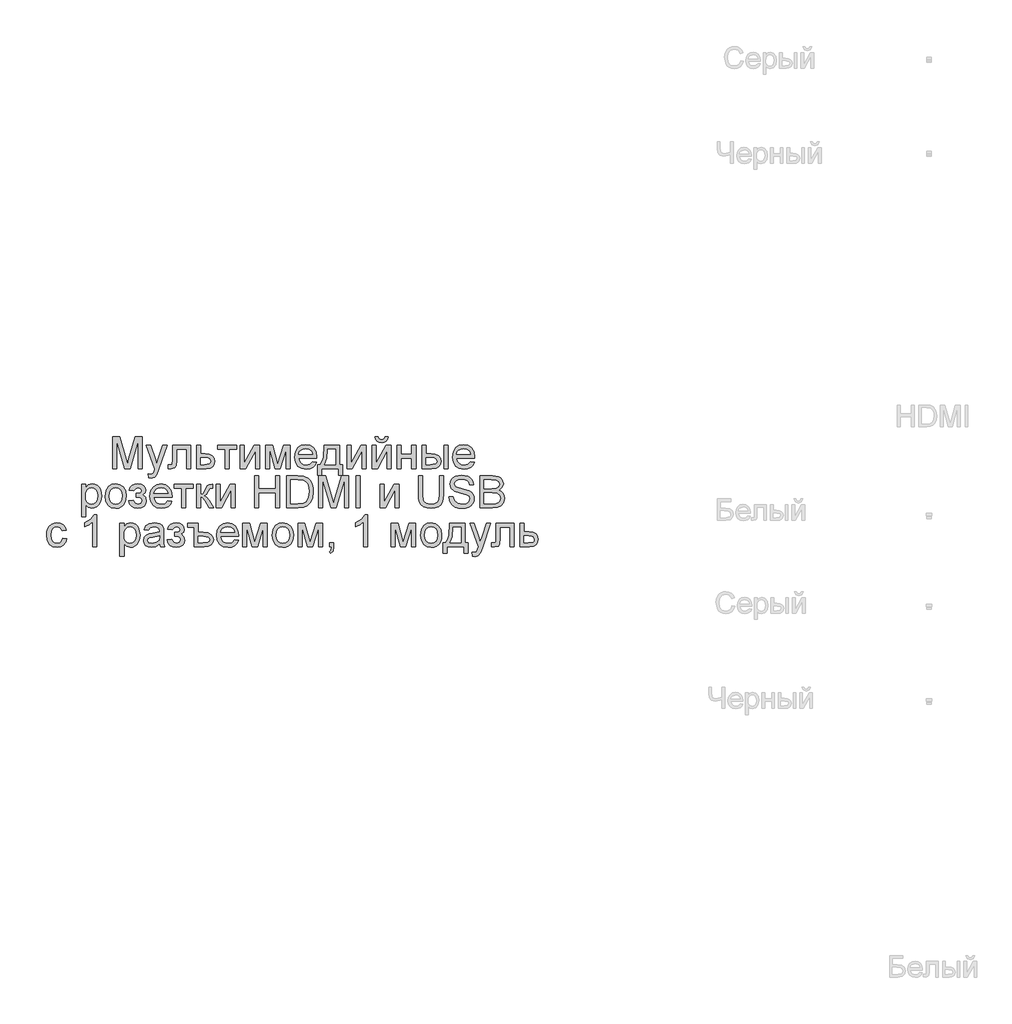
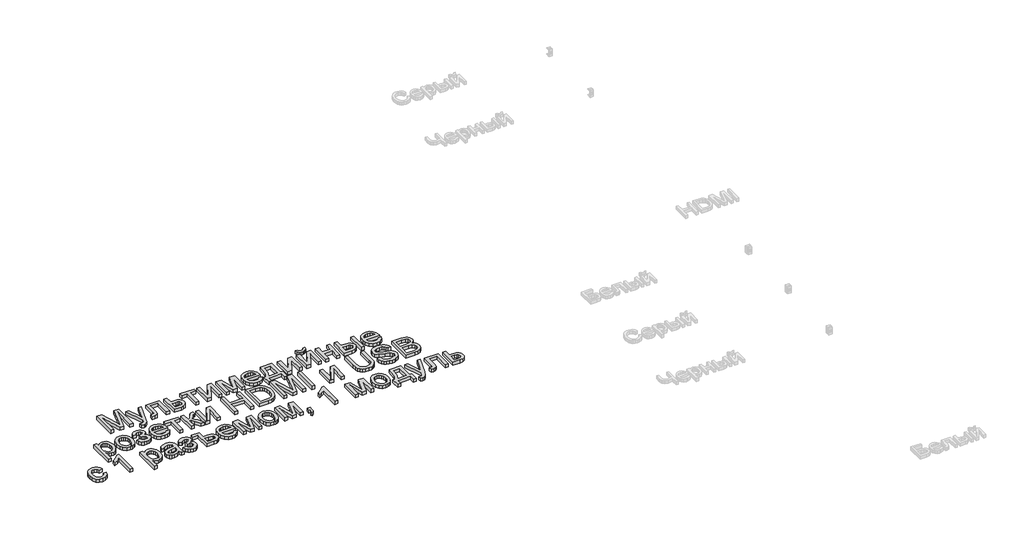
# One storey, part 5 of 15: 1 proxy.
"""IFC4 building model written with IfcOpenShell, lengths in millimetres."""

from ifc_helpers import new_model, si_unit, origin, origin_with_axes, place, context, project, spatial, polyline, outline, extrude, element, save

model = new_model("IFC4")

# Units and contexts
model_context = context("Model", 3, world=origin())
ifc_project = project(units=[si_unit("LENGTHUNIT", "METRE", prefix="MILLI")], contexts=[model_context])

# Site, building, storey
site = spatial("IfcSite", under=ifc_project)
building = spatial("IfcBuilding", under=site)
storey = spatial("IfcBuildingStorey", under=building, Name="Этаж 01", Elevation=0.0)

# Proxy
placement = place(None, origin())
element("IfcBuildingElementProxy", 1, Name="150 мм Arial", ObjectType="150 мм Arial", at=placement, inside=storey, context=model_context, shape_type="SweptSolid", body=[
    extrude(outline(polyline([(-2314.2486685, -606.0463775), (-2314.2486685, -455.3619122), (-2281.8382647, -455.3619122), (-2251.0097535, -561.5694442), (-2244.7925478, -583.7527285), (-2238.0603073, -559.7300343), (-2207.7468309, -455.3619122), (-2175.3364271, -455.3619122), (-2175.3364271, -606.0463775), (-2194.1719853, -606.0463775), (-2194.1719853, -474.1974704), (-2232.0270426, -606.0463775), (-2257.558053, -606.0463775), (-2295.4131103, -474.1974704), (-2295.4131103, -606.0463775), (-2314.2486685, -606.0463775)])), origin_with_axes(), (0.0, 0.0, 1.0), 20.0),
    extrude(outline(polyline([(-2144.7286451, -648.4263833), (-2147.0830899, -630.2898009), (-2137.518158, -631.9452699), (-2128.5786255, -629.8667366), (-2123.0971838, -624.0725952), (-2117.9468359, -610.203444), (-2116.4753079, -605.6417073), (-2156.5008689, -495.3874733), (-2136.6352412, -495.3874733), (-2115.4084501, -556.8237665), (-2108.014022, -581.3982838), (-2100.6195939, -559.6932461), (-2078.8041916, -495.3874733), (-2059.0857166, -495.3874733), (-2097.6029615, -608.6951278), (-2107.6093518, -633.2696451), (-2118.535447, -646.5501851), (-2133.2139387, -650.7808281), (-2144.7286451, -648.4263833)])), origin_with_axes(), (0.0, 0.0, 1.0), 20.0),
    extrude(outline(polyline([(-2034.069741, -495.3874733), (-1949.3097293, -495.3874733), (-1949.3097293, -605.9360129), (-1968.1452874, -605.9360129), (-1968.1452874, -514.2230315), (-2015.2341828, -514.2230315), (-2015.2341828, -567.0140978), (-2016.5033757, -591.3678858), (-2023.4747395, -601.6501876), (-2039.9558529, -606.0463775), (-2055.2597439, -605.0898843), (-2055.2597439, -587.2108193), (-2046.8352462, -587.2108193), (-2038.318778, -586.051991), (-2034.9158695, -582.3731711), (-2034.069741, -565.94724), (-2034.069741, -495.3874733)])), origin_with_axes(), (0.0, 0.0, 1.0), 20.0),
    extrude(outline(polyline([(-1921.056392, -495.3874733), (-1902.2208339, -495.3874733), (-1902.2208339, -535.4130344), (-1880.5157962, -535.4130344), (-1861.6986321, -537.7720777), (-1847.7742986, -544.8492076), (-1839.1658599, -556.0742069), (-1836.2963803, -570.8768587), (-1838.7381971, -584.3551353), (-1846.0636473, -595.7272875), (-1858.7601747, -603.466605), (-1877.3152228, -606.0463775), (-1921.056392, -606.0463775), (-1921.056392, -495.3874733)]), holes=[polyline([(-1902.2208339, -587.2108193), (-1884.6360745, -587.2108193), (-1861.9193613, -583.2560879), (-1856.8287942, -578.1931119), (-1855.1319385, -570.9136469), (-1860.1535277, -559.3253641), (-1868.223939, -555.5177854), (-1882.3919943, -554.2485925), (-1902.2208339, -554.2485925), (-1902.2208339, -587.2108193)])]), origin_with_axes(), (0.0, 0.0, 1.0), 20.0),
    extrude(outline(polyline([(-1822.1697117, -495.3874733), (-1732.7008105, -495.3874733), (-1732.7008105, -514.2230315), (-1768.017482, -514.2230315), (-1768.017482, -606.0463775), (-1786.8530402, -606.0463775), (-1786.8530402, -514.2230315), (-1822.1697117, -514.2230315), (-1822.1697117, -495.3874733)])), origin_with_axes(), (0.0, 0.0, 1.0), 20.0),
    extrude(outline(polyline([(-1716.2196971, -495.3874733), (-1697.384139, -495.3874733), (-1697.384139, -579.779603), (-1651.104584, -495.3874733), (-1626.7507959, -495.3874733), (-1626.7507959, -606.0463775), (-1645.586354, -606.0463775), (-1645.586354, -522.1692826), (-1691.5716034, -606.0463775), (-1716.2196971, -606.0463775), (-1716.2196971, -495.3874733)])), origin_with_axes(), (0.0, 0.0, 1.0), 20.0),
    extrude(outline(polyline([(-1598.4974587, -495.3874733), (-1566.0870549, -495.3874733), (-1541.1078674, -583.9734577), (-1514.1789054, -495.3874733), (-1483.129665, -495.3874733), (-1483.129665, -606.0463775), (-1501.9652231, -606.0463775), (-1501.9652231, -516.9453582), (-1529.041338, -606.0463775), (-1553.763008, -606.0463775), (-1579.6619005, -512.6779271), (-1579.6619005, -606.0463775), (-1598.4974587, -606.0463775), (-1598.4974587, -495.3874733)])), origin_with_axes(), (0.0, 0.0, 1.0), 20.0),
    extrude(outline(polyline([(-1377.4003796, -573.0841507), (-1358.9327034, -575.4385955), (-1365.586769, -589.3537319), (-1376.2047631, -599.7555953), (-1390.5475624, -606.2395155), (-1408.3760436, -608.4008222), (-1430.4765544, -604.6714185), (-1447.4818996, -593.4832073), (-1458.3252215, -575.5627556), (-1461.9396621, -551.6366304), (-1458.2884333, -526.9057632), (-1447.3347468, -508.4104959), (-1430.5593279, -496.8773954), (-1409.4429013, -493.0330285), (-1388.9840639, -496.8681983), (-1372.6363077, -508.3737077), (-1361.9171461, -526.8321868), (-1358.3440922, -551.5262658), (-1358.4544568, -556.6030373), (-1443.1041039, -556.6030373), (-1439.8437497, -570.7021148), (-1432.2699791, -581.06719), (-1421.3392854, -587.4407455), (-1408.0081616, -589.5652641), (-1389.5404854, -585.6289267), (-1377.4003796, -573.0841507)]), holes=[polyline([(-1443.1041039, -537.7674792), (-1377.1796504, -537.7674792), (-1379.7272332, -527.8162712), (-1384.7212313, -520.6977546), (-1395.7025088, -514.0758787), (-1409.5164777, -511.8685867), (-1422.2130051, -513.6298217), (-1432.7114375, -518.9135269), (-1440.0092966, -527.1494851), (-1443.1041039, -537.7674792)])]), origin_with_axes(), (0.0, 0.0, 1.0), 20.0),
    extrude(outline(polyline([(-1323.0274207, -495.3874733), (-1252.3940776, -495.3874733), (-1252.3940776, -587.2108193), (-1238.267409, -587.2108193), (-1238.267409, -636.6541595), (-1257.1029671, -636.6541595), (-1257.1029671, -606.0463775), (-1334.7996445, -606.0463775), (-1334.7996445, -636.6541595), (-1353.6352027, -636.6541595), (-1353.6352027, -587.2108193), (-1341.8629788, -587.2108193), (-1333.3051239, -571.7459799), (-1327.3132459, -551.2871425), (-1323.0274207, -495.3874733)]), holes=[polyline([(-1306.5463073, -514.2230315), (-1310.9608912, -557.1364662), (-1320.6729759, -587.2108193), (-1271.2296358, -587.2108193), (-1271.2296358, -514.2230315), (-1306.5463073, -514.2230315)])]), origin_with_axes(), (0.0, 0.0, 1.0), 20.0),
    extrude(outline(polyline([(-1217.0774061, -495.3874733), (-1198.2418479, -495.3874733), (-1198.2418479, -579.779603), (-1151.9622929, -495.3874733), (-1127.6085048, -495.3874733), (-1127.6085048, -606.0463775), (-1146.444063, -606.0463775), (-1146.444063, -522.1692826), (-1192.4293124, -606.0463775), (-1217.0774061, -606.0463775), (-1217.0774061, -495.3874733)])), origin_with_axes(), (0.0, 0.0, 1.0), 20.0),
    extrude(outline(polyline([(-1099.3551676, -495.3874733), (-1080.5196095, -495.3874733), (-1080.5196095, -579.779603), (-1034.2400545, -495.3874733), (-1009.8862664, -495.3874733), (-1009.8862664, -606.0463775), (-1028.7218245, -606.0463775), (-1028.7218245, -522.1692826), (-1074.7070739, -606.0463775), (-1099.3551676, -606.0463775), (-1099.3551676, -495.3874733)])), origin_with_axes(), (0.0, 0.0, 1.0), 20.0),
    extrude(outline(polyline([(-1038.1396036, -455.3619122), (-1024.012935, -455.3619122), (-1027.05256, -467.4238431), (-1033.1548026, -476.3127919), (-1042.0437513, -481.7896351), (-1053.4434946, -483.6152495), (-1065.8135267, -481.8034306), (-1075.4060497, -476.3679742), (-1081.9635463, -467.492821), (-1085.228499, -455.3619122), (-1071.1018304, -455.3619122), (-1065.8043296, -465.9753078), (-1055.1357518, -469.4885808), (-1043.4371043, -466.0856724), (-1038.1396036, -455.3619122)])), origin_with_axes(), (0.0, 0.0, 1.0), 20.0),
    extrude(outline(polyline([(-981.6329292, -495.3874733), (-962.797371, -495.3874733), (-962.797371, -537.7674792), (-913.3540308, -537.7674792), (-913.3540308, -495.3874733), (-894.5184727, -495.3874733), (-894.5184727, -606.0463775), (-913.3540308, -606.0463775), (-913.3540308, -556.6030373), (-962.797371, -556.6030373), (-962.797371, -606.0463775), (-981.6329292, -606.0463775), (-981.6329292, -495.3874733)])), origin_with_axes(), (0.0, 0.0, 1.0), 20.0),
    extrude(outline(polyline([(-762.6695656, -495.3874733), (-743.8340075, -495.3874733), (-743.8340075, -606.0463775), (-762.6695656, -606.0463775), (-762.6695656, -495.3874733)])), origin_with_axes(), (0.0, 0.0, 1.0), 20.0),
    extrude(outline(polyline([(-866.2651355, -495.3874733), (-847.4295773, -495.3874733), (-847.4295773, -535.4130344), (-824.142647, -535.4130344), (-804.0149034, -537.7720777), (-789.101887, -544.8492076), (-779.8726474, -556.0742069), (-776.7962342, -570.8768587), (-779.3760067, -584.3551353), (-787.1153242, -595.7272875), (-800.5200244, -603.466605), (-820.0959451, -606.0463775), (-866.2651355, -606.0463775), (-866.2651355, -495.3874733)]), holes=[polyline([(-847.4295773, -587.2108193), (-828.0789844, -587.2108193), (-803.0997969, -583.2560879), (-797.4987935, -578.1931119), (-795.6317924, -570.9136469), (-801.1684164, -559.3253641), (-810.0481681, -555.5177854), (-825.614175, -554.2485925), (-847.4295773, -554.2485925), (-847.4295773, -587.2108193)])]), origin_with_axes(), (0.0, 0.0, 1.0), 20.0),
    extrude(outline(polyline([(-638.1047221, -573.0841507), (-619.6370459, -575.4385955), (-626.2911115, -589.3537319), (-636.9091056, -599.7555953), (-651.2519049, -606.2395155), (-669.080386, -608.4008222), (-691.1808969, -604.6714185), (-708.1862421, -593.4832073), (-719.0295639, -575.5627556), (-722.6440045, -551.6366304), (-718.9927757, -526.9057632), (-708.0390893, -508.4104959), (-691.2636704, -496.8773954), (-670.1472438, -493.0330285), (-649.6884064, -496.8681983), (-633.3406502, -508.3737077), (-622.6214886, -526.8321868), (-619.0484347, -551.5262658), (-619.1587993, -556.6030373), (-703.8084464, -556.6030373), (-700.5480922, -570.7021148), (-692.9743216, -581.06719), (-682.0436279, -587.4407455), (-668.7125041, -589.5652641), (-650.2448279, -585.6289267), (-638.1047221, -573.0841507)]), holes=[polyline([(-703.8084464, -537.7674792), (-637.8839929, -537.7674792), (-640.4315757, -527.8162712), (-645.4255738, -520.6977546), (-656.4068513, -514.0758787), (-670.2208202, -511.8685867), (-682.9173476, -513.6298217), (-693.41578, -518.9135269), (-700.7136391, -527.1494851), (-703.8084464, -537.7674792)])]), origin_with_axes(), (0.0, 0.0, 1.0), 20.0),
    extrude(outline(polyline([(-2460.2242442, -831.3886101), (-2460.2242442, -678.3497001), (-2441.388686, -678.3497001), (-2441.388686, -696.8173762), (-2428.3656634, -681.2007855), (-2410.780904, -675.9952553), (-2398.0429899, -677.8162712), (-2386.9053625, -683.2793188), (-2377.8370713, -692.0533044), (-2371.3071659, -703.8071341), (-2366.0464534, -732.8330236), (-2367.531777, -748.9416564), (-2371.9877476, -763.3488351), (-2379.2718111, -775.323394), (-2389.2414132, -784.1341678), (-2400.8526887, -789.5558287), (-2413.0617724, -791.363049), (-2429.4509153, -786.5254008), (-2441.388686, -774.2933244), (-2441.388686, -831.3886101), (-2460.2242442, -831.3886101)]), holes=[polyline([(-2441.388686, -734.5620689), (-2439.3515395, -751.4478525), (-2433.2400998, -763.2568646), (-2424.2223924, -770.2098343), (-2413.4664426, -772.5274908), (-2402.5357488, -770.1270608), (-2393.2881151, -762.9257708), (-2386.9835375, -750.6844974), (-2384.8820116, -733.1641174), (-2386.9329537, -716.3703043), (-2393.08578, -704.3957453), (-2402.0896919, -697.2220464), (-2412.6938904, -694.8308135), (-2423.3394756, -697.3737977), (-2432.6882768, -705.0027506), (-2439.2135837, -717.4785488), (-2441.388686, -734.5620689)])]), origin_with_axes(), (0.0, 0.0, 1.0), 20.0),
    extrude(outline(polyline([(-2349.56534, -733.6791521), (-2345.4910469, -706.9985104), (-2333.2681676, -688.2457257), (-2318.1666117, -679.0578729), (-2300.0852117, -675.9952553), (-2280.2977588, -679.724659), (-2264.4926286, -690.9128702), (-2254.1321519, -708.6769721), (-2250.6786597, -732.1340478), (-2252.20537, -751.162744), (-2256.7855008, -765.6480975), (-2264.285695, -776.4960179), (-2274.5725953, -784.6124144), (-2286.7908761, -789.6753903), (-2300.0852117, -791.363049), (-2320.1117878, -787.6474408), (-2335.8985239, -776.5006164), (-2346.148636, -758.364034), (-2349.56534, -733.6791521)]), holes=[polyline([(-2330.7297819, -733.6423639), (-2328.550081, -750.6890959), (-2322.0109786, -762.8338003), (-2312.1701352, -770.1040682), (-2300.0852117, -772.5274908), (-2288.0554704, -770.0902726), (-2278.2330212, -762.778618), (-2271.6939187, -750.4729652), (-2269.5142179, -733.0537528), (-2271.7077143, -716.5036615), (-2278.2882035, -704.524504), (-2288.1244483, -697.2542361), (-2300.0852117, -694.8308135), (-2312.1701352, -697.2450391), (-2322.0109786, -704.4877158), (-2328.550081, -716.604829), (-2330.7297819, -733.6423639)])]), origin_with_axes(), (0.0, 0.0, 1.0), 20.0),
    extrude(outline(polyline([(-2203.5897643, -739.5652641), (-2203.5897643, -720.7297059), (-2188.7273317, -719.9939419), (-2181.222539, -716.0759987), (-2177.6908719, -707.8906243), (-2182.4181555, -698.3808747), (-2194.6134436, -694.8308135), (-2207.213402, -698.3624806), (-2215.3619882, -708.9574821), (-2236.5519911, -706.6030373), (-2230.9325936, -693.2121327), (-2222.3885343, -683.6472008), (-2210.9198131, -677.9082417), (-2196.52643, -675.9952553), (-2180.7810806, -678.3267074), (-2168.861704, -685.3210639), (-2161.3569113, -695.5527819), (-2158.8553137, -707.5963187), (-2162.414572, -719.2949661), (-2173.0923469, -728.3448632), (-2160.6395414, -740.0802989), (-2156.5008689, -756.9660824), (-2159.1266267, -770.8306351), (-2167.0038999, -781.8165112), (-2179.5992597, -788.9764145), (-2196.3792772, -791.363049), (-2212.7914127, -789.155757), (-2225.3499843, -782.5338811), (-2234.0549921, -771.4974213), (-2238.9064359, -756.0463775), (-2217.7164329, -753.6919327), (-2209.2183589, -767.5978721), (-2194.5766554, -772.5274908), (-2180.8178688, -767.8002072), (-2175.3364271, -755.7152837), (-2178.7393356, -745.819258), (-2185.9866109, -740.5217573), (-2199.9109444, -739.4548995), (-2203.5897643, -739.5652641)])), origin_with_axes(), (0.0, 0.0, 1.0), 20.0),
    extrude(outline(polyline([(-2055.4804731, -756.0463775), (-2037.0127969, -758.4008222), (-2043.6668625, -772.3159587), (-2054.2848566, -782.7178221), (-2068.6276559, -789.2017423), (-2086.4561371, -791.363049), (-2108.5566479, -787.6336453), (-2125.5619932, -776.4454341), (-2136.405315, -758.5249824), (-2140.0197556, -734.5988571), (-2136.3685268, -709.86799), (-2125.4148404, -691.3727227), (-2108.6394214, -679.8396222), (-2087.5229949, -675.9952553), (-2067.0641574, -679.8304251), (-2050.7164012, -691.3359345), (-2039.9972396, -709.7944136), (-2036.4241857, -734.4884925), (-2036.5345503, -739.5652641), (-2121.1841974, -739.5652641), (-2117.9238432, -753.6643415), (-2110.3500727, -764.0294168), (-2099.4193789, -770.4029723), (-2086.0882551, -772.5274908), (-2067.6205789, -768.5911535), (-2055.4804731, -756.0463775)]), holes=[polyline([(-2121.1841974, -720.7297059), (-2055.2597439, -720.7297059), (-2057.8073267, -710.7784979), (-2062.8013248, -703.6599813), (-2073.7826023, -697.0381054), (-2087.5965713, -694.8308135), (-2100.2930986, -696.5920485), (-2110.791531, -701.8757537), (-2118.0893901, -710.1117118), (-2121.1841974, -720.7297059)])]), origin_with_axes(), (0.0, 0.0, 1.0), 20.0),
    extrude(outline(polyline([(-2027.0064066, -678.3497001), (-1937.5375054, -678.3497001), (-1937.5375054, -697.1852582), (-1972.854177, -697.1852582), (-1972.854177, -789.0086042), (-1991.6897351, -789.0086042), (-1991.6897351, -697.1852582), (-2027.0064066, -697.1852582), (-2027.0064066, -678.3497001)])), origin_with_axes(), (0.0, 0.0, 1.0), 20.0),
    extrude(outline(polyline([(-1921.056392, -678.3497001), (-1902.2208339, -678.3497001), (-1902.2208339, -725.4385955), (-1889.6024814, -722.0540811), (-1879.2649974, -702.3356062), (-1870.6749528, -685.3210639), (-1863.0965837, -679.7844399), (-1849.319403, -678.3497001), (-1845.7141594, -678.3497001), (-1845.7141594, -697.2956228), (-1850.790931, -697.1852582), (-1859.9879808, -699.171821), (-1866.462704, -711.5694442), (-1874.0594672, -724.978743), (-1884.7096509, -731.5454366), (-1872.8270625, -738.8754853), (-1861.1652032, -754.3173321), (-1841.0052699, -789.0086042), (-1862.416002, -789.0086042), (-1882.1712651, -755.0530961), (-1892.104079, -740.6873042), (-1902.2208339, -737.2108193), (-1902.2208339, -789.0086042), (-1921.056392, -789.0086042), (-1921.056392, -678.3497001)])), origin_with_axes(), (0.0, 0.0, 1.0), 20.0),
    extrude(outline(polyline([(-1829.233046, -678.3497001), (-1810.3974879, -678.3497001), (-1810.3974879, -762.7418298), (-1764.1179329, -678.3497001), (-1739.7641448, -678.3497001), (-1739.7641448, -789.0086042), (-1758.599703, -789.0086042), (-1758.599703, -705.1315093), (-1804.5849524, -789.0086042), (-1829.233046, -789.0086042), (-1829.233046, -678.3497001)])), origin_with_axes(), (0.0, 0.0, 1.0), 20.0),
    extrude(outline(polyline([(-1650.2952436, -789.0086042), (-1650.2952436, -638.324139), (-1631.4596854, -638.324139), (-1631.4596854, -699.539703), (-1551.4085633, -699.539703), (-1551.4085633, -638.324139), (-1532.5730051, -638.324139), (-1532.5730051, -789.0086042), (-1551.4085633, -789.0086042), (-1551.4085633, -718.3752611), (-1631.4596854, -718.3752611), (-1631.4596854, -789.0086042), (-1650.2952436, -789.0086042)])), origin_with_axes(), (0.0, 0.0, 1.0), 20.0),
    extrude(outline(polyline([(-1499.6107784, -789.0086042), (-1499.6107784, -638.324139), (-1447.6290524, -638.324139), (-1420.7368786, -640.4946428), (-1398.5903825, -651.2735852), (-1388.170125, -662.7515035), (-1380.7481057, -677.0253249), (-1376.3059306, -693.819138), (-1374.8252056, -712.8570312), (-1378.8351193, -743.2624781), (-1389.1358152, -765.2066391), (-1402.8946018, -778.8734553), (-1420.9024255, -786.4334303), (-1445.1274549, -789.0086042), (-1499.6107784, -789.0086042)]), holes=[polyline([(-1480.7752202, -770.1730461), (-1447.4451114, -770.1730461), (-1423.201688, -767.4507193), (-1409.2221721, -759.7619856), (-1397.762648, -741.0551862), (-1393.6607637, -712.5627256), (-1395.6703191, -692.0349103), (-1401.6989853, -676.8781721), (-1410.6063282, -666.4671116), (-1421.2519134, -660.1763295), (-1447.9601462, -657.1596972), (-1480.7752202, -657.1596972), (-1480.7752202, -770.1730461)])]), origin_with_axes(), (0.0, 0.0, 1.0), 20.0),
    extrude(outline(polyline([(-1348.9263131, -789.0086042), (-1348.9263131, -638.324139), (-1316.5159094, -638.324139), (-1285.6873982, -744.531671), (-1279.4701924, -766.7149553), (-1272.7379519, -742.692261), (-1242.4244755, -638.324139), (-1210.0140718, -638.324139), (-1210.0140718, -789.0086042), (-1228.8496299, -789.0086042), (-1228.8496299, -657.1596972), (-1266.7046872, -789.0086042), (-1292.2356977, -789.0086042), (-1330.090755, -657.1596972), (-1330.090755, -789.0086042), (-1348.9263131, -789.0086042)])), origin_with_axes(), (0.0, 0.0, 1.0), 20.0),
    extrude(outline(polyline([(-1174.6974002, -789.0086042), (-1174.6974002, -638.324139), (-1155.8618421, -638.324139), (-1155.8618421, -789.0086042), (-1174.6974002, -789.0086042)])), origin_with_axes(), (0.0, 0.0, 1.0), 20.0),
    extrude(outline(polyline([(-1061.6840513, -678.3497001), (-1042.8484931, -678.3497001), (-1042.8484931, -762.7418298), (-996.5689382, -678.3497001), (-972.2151501, -678.3497001), (-972.2151501, -789.0086042), (-991.0507082, -789.0086042), (-991.0507082, -705.1315093), (-1037.0359576, -789.0086042), (-1061.6840513, -789.0086042), (-1061.6840513, -678.3497001)])), origin_with_axes(), (0.0, 0.0, 1.0), 20.0),
    extrude(outline(polyline([(-783.8595685, -638.324139), (-765.0240104, -638.324139), (-765.0240104, -725.2546545), (-766.3024003, -745.6123244), (-770.1375701, -761.2886959), (-777.302072, -773.3828165), (-788.5684581, -782.9937336), (-803.9643196, -789.2707201), (-823.5172476, -791.363049), (-842.6425128, -789.5420331), (-857.9326083, -784.0789855), (-869.3921324, -775.1624456), (-877.0256838, -762.9809531), (-881.3161076, -746.642394), (-882.7462488, -725.2546545), (-882.7462488, -638.324139), (-863.9106907, -638.324139), (-863.9106907, -724.5924669), (-860.1950825, -753.3056566), (-855.1459022, -761.4680384), (-847.4295773, -767.5242957), (-825.2830812, -772.5274908), (-806.1256263, -770.0534844), (-793.3877122, -762.6314652), (-786.2416045, -748.1737028), (-783.8595685, -724.5924669), (-783.8595685, -638.324139)])), origin_with_axes(), (0.0, 0.0, 1.0), 20.0),
    extrude(outline(polyline([(-739.1251179, -737.2108193), (-720.2895598, -737.2108193), (-714.2195069, -756.0647716), (-699.3938625, -767.9841482), (-676.8059079, -772.5274908), (-657.1242212, -769.0877942), (-644.4138983, -759.6332269), (-640.2384376, -746.9964804), (-643.3654346, -735.2426506), (-656.167728, -726.6893942), (-683.5933308, -719.4973012), (-713.1158609, -710.2082809), (-729.1371218, -696.1919768), (-734.4162284, -677.4667833), (-732.783752, -666.434922), (-727.886323, -656.1480217), (-719.8526999, -647.4292184), (-708.8116415, -641.1016481), (-680.8893981, -635.9696942), (-651.0909565, -641.3407714), (-639.6682205, -647.9718443), (-631.2253287, -657.122909), (-625.8818428, -668.2237482), (-623.7573242, -680.7041448), (-642.5928824, -680.7041448), (-646.0509732, -669.4653499), (-653.2614603, -661.3535519), (-664.5278464, -656.4423273), (-680.1536341, -654.8052524), (-696.1473038, -656.4239332), (-707.1193843, -661.2799755), (-713.4653488, -668.4260833), (-715.5806702, -676.9149603), (-714.0815511, -684.1530385), (-709.5841937, -689.9747711), (-678.8292589, -700.4961962), (-645.4991502, -709.9507635), (-634.7615944, -716.7841715), (-627.2705973, -725.2178663), (-622.8698089, -735.1598772), (-621.4028795, -746.5182338), (-623.0905381, -758.1295093), (-628.1535141, -769.051006), (-636.3848737, -778.450391), (-647.5776834, -785.4953312), (-661.0375659, -789.8961195), (-676.070144, -791.363049), (-694.5240245, -789.7811564), (-709.7129524, -785.0354787), (-721.8116715, -777.1076217), (-730.9949258, -765.9791913), (-736.8902348, -752.4227398), (-739.1251179, -737.2108193)])), origin_with_axes(), (0.0, 0.0, 1.0), 20.0),
    extrude(outline(polyline([(-593.1495422, -789.0086042), (-593.1495422, -638.324139), (-535.6495864, -638.324139), (-507.4882197, -642.757117), (-498.0244553, -648.381113), (-490.8599535, -656.387145), (-484.8450829, -675.6641615), (-489.9034603, -693.267315), (-505.1889572, -706.6030373), (-494.5157808, -712.1764495), (-486.6293105, -720.6561295), (-481.7594726, -731.4810572), (-480.1361933, -744.0902126), (-484.5691714, -764.3421164), (-495.5504489, -778.7630907), (-511.9395918, -786.4150362), (-536.0910448, -789.0086042), (-593.1495422, -789.0086042)]), holes=[polyline([(-574.3139841, -699.539703), (-539.9170175, -699.539703), (-519.8306606, -697.9210222), (-507.7457371, -690.9496584), (-503.680641, -678.6807939), (-507.4698256, -666.3935352), (-518.3223444, -659.1278658), (-542.5289797, -657.1596972), (-574.3139841, -657.1596972), (-574.3139841, -699.539703)]), polyline([(-574.3139841, -770.1730461), (-535.6863746, -770.1730461), (-521.7068588, -769.4372821), (-509.8794526, -765.3353978), (-502.0435661, -756.9660824), (-498.9717515, -744.2741536), (-502.576995, -729.6324502), (-514.2572484, -720.8952528), (-537.5257846, -718.3752611), (-574.3139841, -718.3752611), (-574.3139841, -770.1730461)])]), origin_with_axes(), (0.0, 0.0, 1.0), 20.0),
    extrude(outline(polyline([(-2548.515923, -931.9452699), (-2529.6803649, -934.2997147), (-2534.9318803, -951.052141), (-2544.8003149, -963.7118802), (-2558.3567664, -971.6719269), (-2574.6723329, -974.3252758), (-2594.708106, -970.6234632), (-2610.3752805, -959.5180255), (-2620.4874368, -941.4964062), (-2623.8581556, -917.0460491), (-2622.4188173, -900.2844257), (-2618.1008024, -885.7576854), (-2610.835133, -874.0268483), (-2600.5528312, -865.6529344), (-2588.251777, -860.6313452), (-2574.9298503, -858.9574821), (-2559.0143554, -861.2567445), (-2546.2902369, -868.154532), (-2537.1621649, -879.2829623), (-2532.0348096, -894.2741536), (-2550.8703678, -896.6285984), (-2559.6075652, -882.5203239), (-2574.7826975, -877.7930402), (-2586.954993, -880.1198938), (-2596.6164939, -887.1004547), (-2602.9210716, -899.1118018), (-2605.0225975, -916.5310143), (-2602.9670568, -934.1847516), (-2596.8004349, -946.2374854), (-2587.3136779, -953.1766596), (-2575.2977323, -955.4897176), (-2565.5442609, -954.0457808), (-2557.547426, -949.7139703), (-2551.7302919, -942.3839215), (-2548.515923, -931.9452699)])), origin_with_axes(), (0.0, 0.0, 1.0), 20.0),
    extrude(outline(polyline([(-2388.4136787, -971.970831), (-2407.2492369, -971.970831), (-2407.2492369, -854.5428981), (-2425.0915136, -867.2532211), (-2444.9203532, -876.7629706), (-2444.9203532, -858.9574821), (-2417.3108094, -841.3359345), (-2400.5537845, -821.2863658), (-2388.4136787, -821.2863658), (-2388.4136787, -971.970831)])), origin_with_axes(), (0.0, 0.0, 1.0), 20.0),
    extrude(outline(polyline([(-2280.1092193, -1014.3508368), (-2280.1092193, -861.3119268), (-2261.2736612, -861.3119268), (-2261.2736612, -879.779603), (-2248.2506385, -864.1630123), (-2230.6658792, -858.9574821), (-2217.9279651, -860.7784979), (-2206.7903377, -866.2415456), (-2197.7220465, -875.0155312), (-2191.1921411, -886.7693609), (-2185.9314286, -915.7952503), (-2187.4167521, -931.9038832), (-2191.8727228, -946.3110618), (-2199.1567863, -958.2856208), (-2209.1263884, -967.0963946), (-2220.7376638, -972.5180555), (-2232.9467475, -974.3252758), (-2249.3358904, -969.4876275), (-2261.2736612, -957.2555512), (-2261.2736612, -1014.3508368), (-2280.1092193, -1014.3508368)]), holes=[polyline([(-2261.2736612, -917.5242957), (-2259.2365146, -934.4100793), (-2253.125075, -946.2190913), (-2244.1073676, -953.172061), (-2233.3514177, -955.4897176), (-2222.420724, -953.0892876), (-2213.1730903, -945.8879975), (-2206.8685126, -933.6467241), (-2204.7669867, -916.1263441), (-2206.8179288, -899.332531), (-2212.9707552, -887.3579721), (-2221.974667, -880.1842732), (-2232.5788656, -877.7930402), (-2243.2244508, -880.3360245), (-2252.573252, -887.9649774), (-2259.0985589, -900.4407756), (-2261.2736612, -917.5242957)])]), origin_with_axes(), (0.0, 0.0, 1.0), 20.0),
    extrude(outline(polyline([(-2094.1080826, -957.8441624), (-2112.3734236, -970.6096676), (-2132.5517511, -974.3252758), (-2148.2925019, -972.0903926), (-2159.9037774, -965.3857433), (-2167.0636807, -955.2046091), (-2169.4503152, -942.5402714), (-2165.8450716, -927.6410506), (-2156.3721102, -916.8253199), (-2143.1835407, -910.6449024), (-2126.8863683, -907.812211), (-2094.2184472, -901.3374879), (-2094.1080826, -897.1436332), (-2095.4048666, -888.7375296), (-2099.2952187, -883.2376938), (-2107.9956279, -879.1542036), (-2120.1173396, -877.7930402), (-2139.173627, -881.4166779), (-2148.2603123, -894.2741536), (-2167.0958704, -891.9197088), (-2158.9472842, -873.5256091), (-2142.5397472, -862.7466666), (-2117.6893185, -858.9574821), (-2094.8622407, -862.3052082), (-2081.9679767, -870.7113118), (-2076.1922294, -883.4952112), (-2075.2725244, -899.9763245), (-2075.2725244, -923.4104076), (-2074.3160312, -956.1335111), (-2070.5636349, -971.970831), (-2089.399193, -971.970831), (-2094.1080826, -957.8441624)]), holes=[polyline([(-2094.1080826, -920.1730461), (-2124.4951354, -925.9487934), (-2140.7003373, -929.002214), (-2148.0395831, -933.9686209), (-2150.614757, -941.2158962), (-2145.0045566, -951.4062275), (-2128.5418373, -955.4897176), (-2109.48555, -950.9831632), (-2097.1982913, -940.075462), (-2094.2184472, -925.507335), (-2094.1080826, -920.1730461)])]), origin_with_axes(), (0.0, 0.0, 1.0), 20.0),
    extrude(outline(polyline([(-2023.4747395, -922.5274908), (-2023.4747395, -903.6919327), (-2008.6123069, -902.9561687), (-2001.1075142, -899.0382254), (-1997.575847, -890.8528511), (-2002.3031307, -881.3431015), (-2014.4984188, -877.7930402), (-2027.0983771, -881.3247074), (-2035.2469633, -891.9197088), (-2056.4369663, -889.5652641), (-2050.8175688, -876.1743594), (-2042.2735094, -866.6094276), (-2030.8047882, -860.8704684), (-2016.4114052, -858.9574821), (-2000.6660558, -861.2889342), (-1988.7466791, -868.2832907), (-1981.2418864, -878.5150086), (-1978.7402889, -890.5585455), (-1982.2995472, -902.2571929), (-1992.9773221, -911.30709), (-1980.5245166, -923.0425256), (-1976.3858441, -939.9283092), (-1979.0116018, -953.7928619), (-1986.8888751, -964.778738), (-1999.4842349, -971.9386413), (-2016.2642524, -974.3252758), (-2032.6763879, -972.1179838), (-2045.2349595, -965.4961079), (-2053.9399672, -954.459648), (-2058.791411, -939.0086042), (-2037.6014081, -936.6541595), (-2029.103334, -950.5600989), (-2014.4616306, -955.4897176), (-2000.702844, -950.762434), (-1995.2214023, -938.6775104), (-1998.6243107, -928.7814848), (-2005.871586, -923.483984), (-2019.7959195, -922.4171262), (-2023.4747395, -922.5274908)])), origin_with_axes(), (0.0, 0.0, 1.0), 20.0),
    extrude(outline(polyline([(-1962.2591755, -861.3119268), (-1912.8158353, -861.3119268), (-1912.8158353, -903.6919327), (-1889.4553286, -903.6919327), (-1868.0262024, -906.1843332), (-1853.4028931, -913.6615348), (-1844.9875925, -924.7531769), (-1842.1824923, -938.0888992), (-1844.9140161, -951.7051316), (-1853.1085875, -962.5346578), (-1866.6374479, -969.6117877), (-1885.3718385, -971.970831), (-1931.6513935, -971.970831), (-1931.6513935, -880.147485), (-1962.2591755, -880.147485), (-1962.2591755, -861.3119268)]), holes=[polyline([(-1912.8158353, -953.1352728), (-1893.4284542, -953.1352728), (-1868.3940844, -949.5116352), (-1862.8620589, -944.7889501), (-1861.0180504, -937.86817), (-1862.5953445, -931.3750528), (-1867.3272266, -926.5374046), (-1890.9636448, -922.5274908), (-1912.8158353, -922.5274908), (-1912.8158353, -953.1352728)])]), origin_with_axes(), (0.0, 0.0, 1.0), 20.0),
    extrude(outline(polyline([(-1743.5165412, -939.0086042), (-1725.048865, -941.363049), (-1731.7029306, -955.2781855), (-1742.3209247, -965.6800489), (-1756.663724, -972.163969), (-1774.4922052, -974.3252758), (-1796.592716, -970.595872), (-1813.5980612, -959.4076609), (-1824.4413831, -941.4872092), (-1828.0558237, -917.5610839), (-1824.4045949, -892.8302168), (-1813.4509084, -874.3349495), (-1796.6754895, -862.8018489), (-1775.5590629, -858.9574821), (-1755.1002255, -862.7926519), (-1738.7524693, -874.2981613), (-1728.0333077, -892.7566404), (-1724.4602538, -917.4507193), (-1724.5706184, -922.5274908), (-1809.2202655, -922.5274908), (-1805.9599113, -936.6265683), (-1798.3861407, -946.9916435), (-1787.455447, -953.3651991), (-1774.1243232, -955.4897176), (-1755.656647, -951.5533803), (-1743.5165412, -939.0086042)]), holes=[polyline([(-1809.2202655, -903.6919327), (-1743.295812, -903.6919327), (-1745.8433948, -893.7407247), (-1750.8373929, -886.6222081), (-1761.8186704, -880.0003322), (-1775.6326393, -877.7930402), (-1788.3291667, -879.5542753), (-1798.8275991, -884.8379804), (-1806.1254582, -893.0739386), (-1809.2202655, -903.6919327)])]), origin_with_axes(), (0.0, 0.0, 1.0), 20.0),
    extrude(outline(polyline([(-1705.6246957, -861.3119268), (-1673.2142919, -861.3119268), (-1648.2351044, -949.8979113), (-1621.3061424, -861.3119268), (-1590.256902, -861.3119268), (-1590.256902, -971.970831), (-1609.0924601, -971.970831), (-1609.0924601, -882.8698118), (-1636.168575, -971.970831), (-1660.890245, -971.970831), (-1686.7891375, -878.6023806), (-1686.7891375, -971.970831), (-1705.6246957, -971.970831), (-1705.6246957, -861.3119268)])), origin_with_axes(), (0.0, 0.0, 1.0), 20.0),
    extrude(outline(polyline([(-1566.7124543, -916.6413789), (-1562.6381612, -889.9607372), (-1550.4152819, -871.2079525), (-1535.313726, -862.0200997), (-1517.2323259, -858.9574821), (-1497.4448731, -862.6868858), (-1481.6397429, -873.875097), (-1471.2792662, -891.6391988), (-1467.825774, -915.0962745), (-1469.3524843, -934.1249707), (-1473.9326151, -948.6103243), (-1481.4328093, -959.4582446), (-1491.7197096, -967.5746411), (-1503.9379903, -972.6376171), (-1517.2323259, -974.3252758), (-1537.258902, -970.6096676), (-1553.0456382, -959.4628432), (-1563.2957502, -941.3262608), (-1566.7124543, -916.6413789)]), holes=[polyline([(-1547.8768961, -916.6045907), (-1545.6971953, -933.6513227), (-1539.1580928, -945.796027), (-1529.3172495, -953.066295), (-1517.2323259, -955.4897176), (-1505.2025847, -953.0524994), (-1495.3801354, -945.7408447), (-1488.841033, -933.435192), (-1486.6613321, -916.0159795), (-1488.8548285, -899.4658883), (-1495.4353177, -887.4867308), (-1505.2715626, -880.2164629), (-1517.2323259, -877.7930402), (-1529.3172495, -880.2072658), (-1539.1580928, -887.4499426), (-1545.6971953, -899.5670558), (-1547.8768961, -916.6045907)])]), origin_with_axes(), (0.0, 0.0, 1.0), 20.0),
    extrude(outline(polyline([(-1446.6357711, -861.3119268), (-1414.2253673, -861.3119268), (-1389.2461798, -949.8979113), (-1362.3172178, -861.3119268), (-1331.2679774, -861.3119268), (-1331.2679774, -971.970831), (-1350.1035355, -971.970831), (-1350.1035355, -882.8698118), (-1377.1796504, -971.970831), (-1401.9013204, -971.970831), (-1427.8002129, -878.6023806), (-1427.8002129, -971.970831), (-1446.6357711, -971.970831), (-1446.6357711, -861.3119268)])), origin_with_axes(), (0.0, 0.0, 1.0), 20.0),
    extrude(outline(polyline([(-1298.3057506, -971.970831), (-1298.3057506, -953.1352728), (-1279.4701924, -953.1352728), (-1279.4701924, -971.970831), (-1282.8547068, -991.2294534), (-1293.5968611, -1002.578613), (-1298.3057506, -995.5152787), (-1291.3895691, -987.3850866), (-1288.9247597, -971.970831), (-1298.3057506, -971.970831)])), origin_with_axes(), (0.0, 0.0, 1.0), 20.0),
    extrude(outline(polyline([(-1119.3679481, -971.970831), (-1138.2035063, -971.970831), (-1138.2035063, -854.5428981), (-1156.0457831, -867.2532211), (-1175.8746226, -876.7629706), (-1175.8746226, -858.9574821), (-1148.2650789, -841.3359345), (-1131.508054, -821.2863658), (-1119.3679481, -821.2863658), (-1119.3679481, -971.970831)])), origin_with_axes(), (0.0, 0.0, 1.0), 20.0),
    extrude(outline(polyline([(-1011.0634888, -861.3119268), (-978.653085, -861.3119268), (-953.6738975, -949.8979113), (-926.7449355, -861.3119268), (-895.6956951, -861.3119268), (-895.6956951, -971.970831), (-914.5312532, -971.970831), (-914.5312532, -882.8698118), (-941.6073681, -971.970831), (-966.3290382, -971.970831), (-992.2279306, -878.6023806), (-992.2279306, -971.970831), (-1011.0634888, -971.970831), (-1011.0634888, -861.3119268)])), origin_with_axes(), (0.0, 0.0, 1.0), 20.0),
    extrude(outline(polyline([(-872.1512474, -916.6413789), (-868.0769543, -889.9607372), (-855.854075, -871.2079525), (-840.7525191, -862.0200997), (-822.671119, -858.9574821), (-802.8836662, -862.6868858), (-787.078536, -873.875097), (-776.7180593, -891.6391988), (-773.2645671, -915.0962745), (-774.7912774, -934.1249707), (-779.3714082, -948.6103243), (-786.8716024, -959.4582446), (-797.1585027, -967.5746411), (-809.3767834, -972.6376171), (-822.671119, -974.3252758), (-842.6976951, -970.6096676), (-858.4844313, -959.4628432), (-868.7345434, -941.3262608), (-872.1512474, -916.6413789)]), holes=[polyline([(-853.3156892, -916.6045907), (-851.1359884, -933.6513227), (-844.5968859, -945.796027), (-834.7560426, -953.066295), (-822.671119, -955.4897176), (-810.6413778, -953.0524994), (-800.8189285, -945.7408447), (-794.2798261, -933.435192), (-792.1001252, -916.0159795), (-794.2936216, -899.4658883), (-800.8741108, -887.4867308), (-810.7103557, -880.2164629), (-822.671119, -877.7930402), (-834.7560426, -880.2072658), (-844.5968859, -887.4499426), (-851.1359884, -899.5670558), (-853.3156892, -916.6045907)])]), origin_with_axes(), (0.0, 0.0, 1.0), 20.0),
    extrude(outline(polyline([(-735.5934508, -861.3119268), (-664.9601077, -861.3119268), (-664.9601077, -953.1352728), (-650.8334391, -953.1352728), (-650.8334391, -1002.578613), (-669.6689972, -1002.578613), (-669.6689972, -971.970831), (-747.3656746, -971.970831), (-747.3656746, -1002.578613), (-766.2012328, -1002.578613), (-766.2012328, -953.1352728), (-754.4290089, -953.1352728), (-745.871154, -937.6704335), (-739.879276, -917.211596), (-735.5934508, -861.3119268)]), holes=[polyline([(-719.1123374, -880.147485), (-723.5269213, -923.0609197), (-733.239006, -953.1352728), (-683.7956659, -953.1352728), (-683.7956659, -880.147485), (-719.1123374, -880.147485)])]), origin_with_axes(), (0.0, 0.0, 1.0), 20.0),
    extrude(outline(polyline([(-629.6434362, -1014.3508368), (-631.9978809, -996.2142545), (-622.4329491, -997.8697235), (-613.4934166, -995.7911902), (-608.0119748, -989.9970488), (-602.8616269, -976.1278975), (-601.3900989, -971.5661608), (-641.41566, -861.3119268), (-621.5500323, -861.3119268), (-600.3232412, -922.74822), (-592.928813, -947.3227373), (-585.5343849, -925.6176996), (-563.7189826, -861.3119268), (-544.0005077, -861.3119268), (-582.5177526, -974.6195814), (-592.5241429, -999.1940986), (-603.4502381, -1012.4746387), (-618.1287297, -1016.7052816), (-629.6434362, -1014.3508368)])), origin_with_axes(), (0.0, 0.0, 1.0), 20.0),
    extrude(outline(polyline([(-518.984532, -861.3119268), (-434.2245203, -861.3119268), (-434.2245203, -971.8604664), (-453.0600785, -971.8604664), (-453.0600785, -880.147485), (-500.1489739, -880.147485), (-500.1489739, -932.9385513), (-501.4181667, -957.2923394), (-508.3895306, -967.5746411), (-524.8706439, -971.970831), (-540.1745349, -971.0143378), (-540.1745349, -953.1352728), (-531.7500372, -953.1352728), (-523.2335691, -951.9764446), (-519.8306606, -948.2976246), (-518.984532, -931.8716935), (-518.984532, -861.3119268)])), origin_with_axes(), (0.0, 0.0, 1.0), 20.0),
    extrude(outline(polyline([(-405.9711831, -861.3119268), (-387.1356249, -861.3119268), (-387.1356249, -901.3374879), (-365.4305872, -901.3374879), (-346.6134232, -903.6965312), (-332.6890897, -910.7736611), (-324.080651, -921.9986605), (-321.2111714, -936.8013123), (-323.6529882, -950.2795889), (-330.9784384, -961.651741), (-343.6749657, -969.3910585), (-362.2300139, -971.970831), (-405.9711831, -971.970831), (-405.9711831, -861.3119268)]), holes=[polyline([(-387.1356249, -953.1352728), (-369.5508656, -953.1352728), (-346.8341524, -949.1805414), (-341.7435853, -944.1175654), (-340.0467296, -936.8381005), (-345.0683188, -925.2498176), (-353.1387301, -921.442239), (-367.3067854, -920.1730461), (-387.1356249, -920.1730461), (-387.1356249, -953.1352728)])]), origin_with_axes(), (0.0, 0.0, 1.0), 20.0),
])

save(model, "model.ifc")
